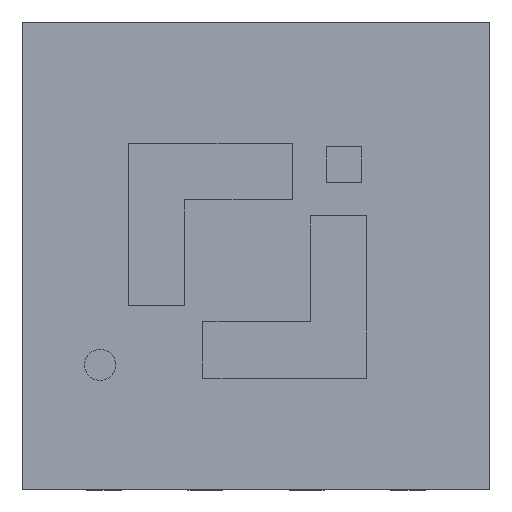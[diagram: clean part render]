
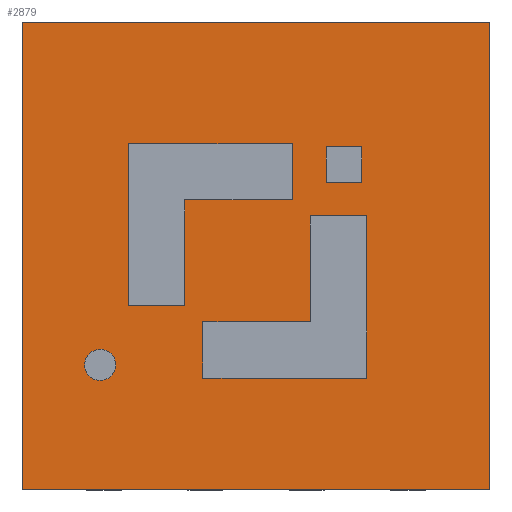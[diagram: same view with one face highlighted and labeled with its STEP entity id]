
A CAD part, top view. The second image highlights one B-rep face of the part: STEP entity #2879.
In plain terms, the highlighted planar face has unit normal (0, 0, 1).
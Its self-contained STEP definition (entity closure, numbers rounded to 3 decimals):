
#2686=CARTESIAN_POINT('',(0.,0.,0.725));
#2687=DIRECTION('',(0.,0.,1.));
#2688=DIRECTION('',(1.,0.,0.));
#2689=AXIS2_PLACEMENT_3D('',#2686,#2687,#2688);
#2690=PLANE('',#2689);
#2691=CARTESIAN_POINT('',(-0.969,-0.605,0.725));
#2692=VERTEX_POINT('',#2691);
#2693=CARTESIAN_POINT('',(-0.9,-0.7,0.725));
#2694=VERTEX_POINT('',#2693);
#2695=CARTESIAN_POINT('',(-1.,-0.7,0.725));
#2696=DIRECTION('',(0.,0.,1.));
#2697=DIRECTION('',(1.,0.,-0.));
#2698=AXIS2_PLACEMENT_3D('',#2695,#2696,#2697);
#2699=CIRCLE('',#2698,0.1);
#2700=EDGE_CURVE('',#2692,#2694,#2699,.T.);
#2701=ORIENTED_EDGE('',*,*,#2700,.F.);
#2702=CARTESIAN_POINT('',(-1.,-0.7,0.725));
#2703=DIRECTION('',(0.,0.,1.));
#2704=DIRECTION('',(1.,0.,-0.));
#2705=AXIS2_PLACEMENT_3D('',#2702,#2703,#2704);
#2706=CIRCLE('',#2705,0.1);
#2707=EDGE_CURVE('',#2694,#2692,#2706,.T.);
#2708=ORIENTED_EDGE('',*,*,#2707,.F.);
#2709=EDGE_LOOP('',(#2701,#2708));
#2710=FACE_BOUND('',#2709,.T.);
#2711=CARTESIAN_POINT('',(1.5,1.5,0.725));
#2712=VERTEX_POINT('',#2711);
#2713=CARTESIAN_POINT('',(1.5,-1.5,0.725));
#2714=VERTEX_POINT('',#2713);
#2715=CARTESIAN_POINT('',(1.5,1.5,0.725));
#2716=DIRECTION('',(0.,-1.,0.));
#2717=VECTOR('',#2716,3.);
#2718=LINE('',#2715,#2717);
#2719=EDGE_CURVE('',#2712,#2714,#2718,.T.);
#2720=ORIENTED_EDGE('',*,*,#2719,.F.);
#2721=CARTESIAN_POINT('',(-1.5,1.5,0.725));
#2722=VERTEX_POINT('',#2721);
#2723=CARTESIAN_POINT('',(-1.5,1.5,0.725));
#2724=DIRECTION('',(1.,0.,0.));
#2725=VECTOR('',#2724,3.);
#2726=LINE('',#2723,#2725);
#2727=EDGE_CURVE('',#2722,#2712,#2726,.T.);
#2728=ORIENTED_EDGE('',*,*,#2727,.F.);
#2729=CARTESIAN_POINT('',(-1.5,-1.5,0.725));
#2730=VERTEX_POINT('',#2729);
#2731=CARTESIAN_POINT('',(-1.5,-1.5,0.725));
#2732=DIRECTION('',(0.,1.,0.));
#2733=VECTOR('',#2732,3.);
#2734=LINE('',#2731,#2733);
#2735=EDGE_CURVE('',#2730,#2722,#2734,.T.);
#2736=ORIENTED_EDGE('',*,*,#2735,.F.);
#2737=CARTESIAN_POINT('',(1.5,-1.5,0.725));
#2738=DIRECTION('',(-1.,-0.,0.));
#2739=VECTOR('',#2738,3.);
#2740=LINE('',#2737,#2739);
#2741=EDGE_CURVE('',#2714,#2730,#2740,.T.);
#2742=ORIENTED_EDGE('',*,*,#2741,.F.);
#2743=EDGE_LOOP('',(#2720,#2728,#2736,#2742));
#2744=FACE_BOUND('',#2743,.T.);
#2745=CARTESIAN_POINT('',(-0.817,0.719,0.725));
#2746=VERTEX_POINT('',#2745);
#2747=CARTESIAN_POINT('',(0.233,0.719,0.725));
#2748=VERTEX_POINT('',#2747);
#2749=CARTESIAN_POINT('',(-0.817,0.719,0.725));
#2750=DIRECTION('',(1.,0.,-0.));
#2751=VECTOR('',#2750,1.05);
#2752=LINE('',#2749,#2751);
#2753=EDGE_CURVE('',#2746,#2748,#2752,.T.);
#2754=ORIENTED_EDGE('',*,*,#2753,.T.);
#2755=CARTESIAN_POINT('',(0.233,0.359,0.725));
#2756=VERTEX_POINT('',#2755);
#2757=CARTESIAN_POINT('',(0.233,0.719,0.725));
#2758=DIRECTION('',(0.,-1.,0.));
#2759=VECTOR('',#2758,0.36);
#2760=LINE('',#2757,#2759);
#2761=EDGE_CURVE('',#2748,#2756,#2760,.T.);
#2762=ORIENTED_EDGE('',*,*,#2761,.T.);
#2763=CARTESIAN_POINT('',(-0.457,0.359,0.725));
#2764=VERTEX_POINT('',#2763);
#2765=CARTESIAN_POINT('',(0.233,0.359,0.725));
#2766=DIRECTION('',(-1.,0.,0.));
#2767=VECTOR('',#2766,0.69);
#2768=LINE('',#2765,#2767);
#2769=EDGE_CURVE('',#2756,#2764,#2768,.T.);
#2770=ORIENTED_EDGE('',*,*,#2769,.T.);
#2771=CARTESIAN_POINT('',(-0.457,-0.321,0.725));
#2772=VERTEX_POINT('',#2771);
#2773=CARTESIAN_POINT('',(-0.457,0.359,0.725));
#2774=DIRECTION('',(0.,-1.,0.));
#2775=VECTOR('',#2774,0.68);
#2776=LINE('',#2773,#2775);
#2777=EDGE_CURVE('',#2764,#2772,#2776,.T.);
#2778=ORIENTED_EDGE('',*,*,#2777,.T.);
#2779=CARTESIAN_POINT('',(-0.817,-0.321,0.725));
#2780=VERTEX_POINT('',#2779);
#2781=CARTESIAN_POINT('',(-0.457,-0.321,0.725));
#2782=DIRECTION('',(-1.,0.,0.));
#2783=VECTOR('',#2782,0.36);
#2784=LINE('',#2781,#2783);
#2785=EDGE_CURVE('',#2772,#2780,#2784,.T.);
#2786=ORIENTED_EDGE('',*,*,#2785,.T.);
#2787=CARTESIAN_POINT('',(-0.817,-0.321,0.725));
#2788=DIRECTION('',(0.,1.,0.));
#2789=VECTOR('',#2788,1.04);
#2790=LINE('',#2787,#2789);
#2791=EDGE_CURVE('',#2780,#2746,#2790,.T.);
#2792=ORIENTED_EDGE('',*,*,#2791,.T.);
#2793=EDGE_LOOP('',(#2754,#2762,#2770,#2778,#2786,#2792));
#2794=FACE_BOUND('',#2793,.T.);
#2795=CARTESIAN_POINT('',(0.35,0.256,0.725));
#2796=VERTEX_POINT('',#2795);
#2797=CARTESIAN_POINT('',(0.71,0.256,0.725));
#2798=VERTEX_POINT('',#2797);
#2799=CARTESIAN_POINT('',(0.35,0.256,0.725));
#2800=DIRECTION('',(1.,0.,0.));
#2801=VECTOR('',#2800,0.36);
#2802=LINE('',#2799,#2801);
#2803=EDGE_CURVE('',#2796,#2798,#2802,.T.);
#2804=ORIENTED_EDGE('',*,*,#2803,.T.);
#2805=CARTESIAN_POINT('',(0.71,-0.784,0.725));
#2806=VERTEX_POINT('',#2805);
#2807=CARTESIAN_POINT('',(0.71,0.256,0.725));
#2808=DIRECTION('',(0.,-1.,0.));
#2809=VECTOR('',#2808,1.04);
#2810=LINE('',#2807,#2809);
#2811=EDGE_CURVE('',#2798,#2806,#2810,.T.);
#2812=ORIENTED_EDGE('',*,*,#2811,.T.);
#2813=CARTESIAN_POINT('',(-0.34,-0.784,0.725));
#2814=VERTEX_POINT('',#2813);
#2815=CARTESIAN_POINT('',(0.71,-0.784,0.725));
#2816=DIRECTION('',(-1.,-0.,0.));
#2817=VECTOR('',#2816,1.05);
#2818=LINE('',#2815,#2817);
#2819=EDGE_CURVE('',#2806,#2814,#2818,.T.);
#2820=ORIENTED_EDGE('',*,*,#2819,.T.);
#2821=CARTESIAN_POINT('',(-0.34,-0.424,0.725));
#2822=VERTEX_POINT('',#2821);
#2823=CARTESIAN_POINT('',(-0.34,-0.784,0.725));
#2824=DIRECTION('',(0.,1.,0.));
#2825=VECTOR('',#2824,0.36);
#2826=LINE('',#2823,#2825);
#2827=EDGE_CURVE('',#2814,#2822,#2826,.T.);
#2828=ORIENTED_EDGE('',*,*,#2827,.T.);
#2829=CARTESIAN_POINT('',(0.35,-0.424,0.725));
#2830=VERTEX_POINT('',#2829);
#2831=CARTESIAN_POINT('',(-0.34,-0.424,0.725));
#2832=DIRECTION('',(1.,0.,0.));
#2833=VECTOR('',#2832,0.69);
#2834=LINE('',#2831,#2833);
#2835=EDGE_CURVE('',#2822,#2830,#2834,.T.);
#2836=ORIENTED_EDGE('',*,*,#2835,.T.);
#2837=CARTESIAN_POINT('',(0.35,-0.424,0.725));
#2838=DIRECTION('',(-0.,1.,0.));
#2839=VECTOR('',#2838,0.68);
#2840=LINE('',#2837,#2839);
#2841=EDGE_CURVE('',#2830,#2796,#2840,.T.);
#2842=ORIENTED_EDGE('',*,*,#2841,.T.);
#2843=EDGE_LOOP('',(#2804,#2812,#2820,#2828,#2836,#2842));
#2844=FACE_BOUND('',#2843,.T.);
#2845=CARTESIAN_POINT('',(0.45,0.7,0.725));
#2846=VERTEX_POINT('',#2845);
#2847=CARTESIAN_POINT('',(0.68,0.7,0.725));
#2848=VERTEX_POINT('',#2847);
#2849=CARTESIAN_POINT('',(0.45,0.7,0.725));
#2850=DIRECTION('',(1.,0.,-0.));
#2851=VECTOR('',#2850,0.23);
#2852=LINE('',#2849,#2851);
#2853=EDGE_CURVE('',#2846,#2848,#2852,.T.);
#2854=ORIENTED_EDGE('',*,*,#2853,.T.);
#2855=CARTESIAN_POINT('',(0.68,0.47,0.725));
#2856=VERTEX_POINT('',#2855);
#2857=CARTESIAN_POINT('',(0.68,0.7,0.725));
#2858=DIRECTION('',(0.,-1.,0.));
#2859=VECTOR('',#2858,0.23);
#2860=LINE('',#2857,#2859);
#2861=EDGE_CURVE('',#2848,#2856,#2860,.T.);
#2862=ORIENTED_EDGE('',*,*,#2861,.T.);
#2863=CARTESIAN_POINT('',(0.45,0.47,0.725));
#2864=VERTEX_POINT('',#2863);
#2865=CARTESIAN_POINT('',(0.68,0.47,0.725));
#2866=DIRECTION('',(-1.,0.,0.));
#2867=VECTOR('',#2866,0.23);
#2868=LINE('',#2865,#2867);
#2869=EDGE_CURVE('',#2856,#2864,#2868,.T.);
#2870=ORIENTED_EDGE('',*,*,#2869,.T.);
#2871=CARTESIAN_POINT('',(0.45,0.47,0.725));
#2872=DIRECTION('',(0.,1.,0.));
#2873=VECTOR('',#2872,0.23);
#2874=LINE('',#2871,#2873);
#2875=EDGE_CURVE('',#2864,#2846,#2874,.T.);
#2876=ORIENTED_EDGE('',*,*,#2875,.T.);
#2877=EDGE_LOOP('',(#2854,#2862,#2870,#2876));
#2878=FACE_BOUND('',#2877,.T.);
#2879=ADVANCED_FACE('',(#2710,#2744,#2794,#2844,#2878),#2690,.T.);
